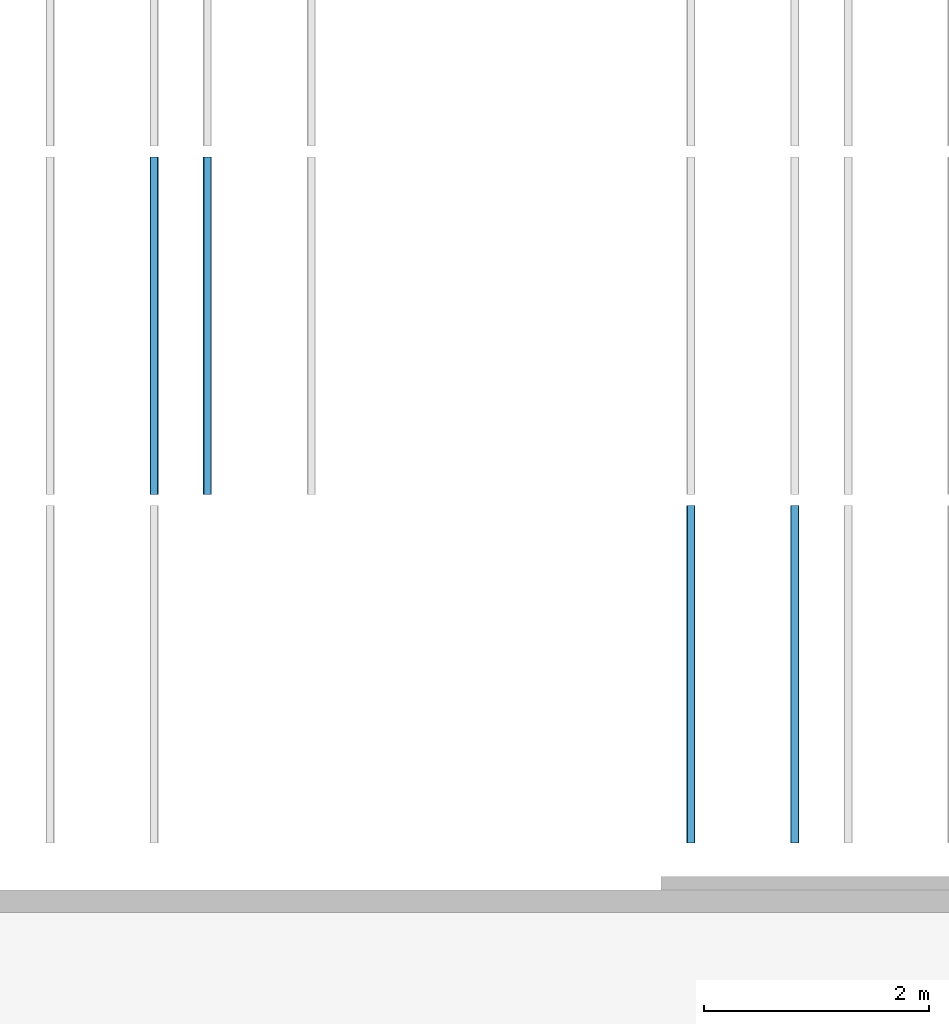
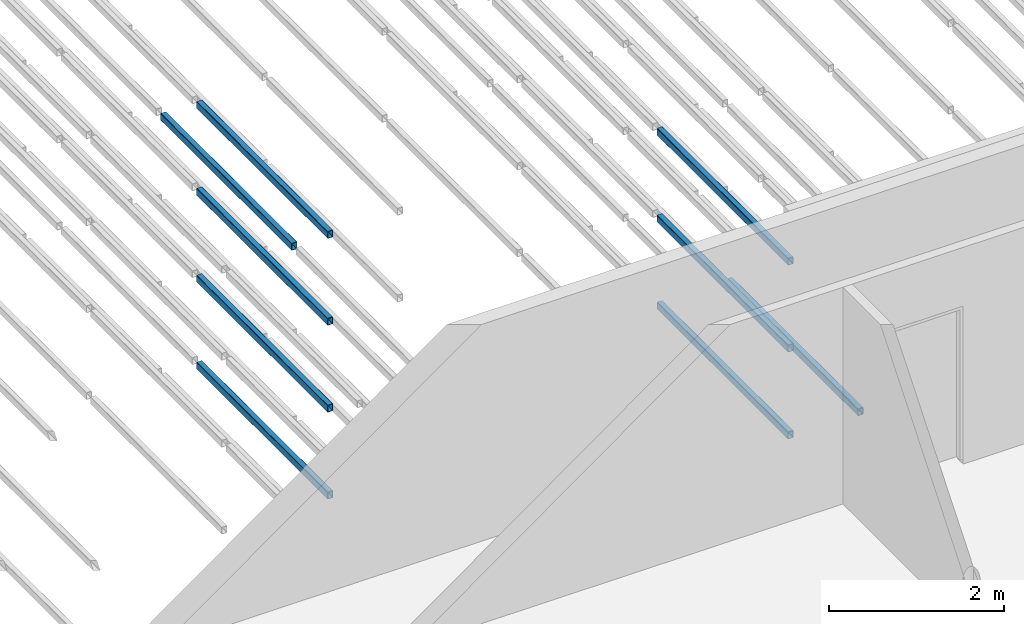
# One storey, part 23 of 290: 9 beams.
"""IFC2X3 building model written with IfcOpenShell, lengths in metres."""

import ifcopenshell
import ifcopenshell.guid

model = None  # the IFC model being written
_history = None  # IfcOwnerHistory: only IFC2X3 demands one
_inside = {}  # id of a spatial element -> (the spatial element, [elements in it])
_under = {}  # id of a project, library or spatial element -> (it, [spatial elements below it])
_declared = {}  # id of a project -> (the project, [libraries it declares])
_typed = {}  # id of a type object -> (the type object, [elements of that type])
_made_of = {}  # id of a material, layer set ... -> (it, [elements and type objects made of it])


def new_model(schema):
    """Start an empty IFC model of exactly this schema.

    Asked for "IFC4X3", IfcOpenShell would pick the latest addendum, in which some entities
    have other attributes; the version numbers below select the first issue.
    IFC2X3 requires an IfcOwnerHistory on every rooted entity: one is made here for all.
    """
    global model, _history
    if schema == "IFC4X3":
        model = ifcopenshell.file(schema_version=(4, 3, 0, 0))
    else:
        model = ifcopenshell.file(schema=schema)
    _inside.clear()
    _under.clear()
    _declared.clear()
    _typed.clear()
    _made_of.clear()
    _history = None
    if model.schema == "IFC2X3":
        org = make("IfcOrganization", Name="unknown")
        user = make(
            "IfcPersonAndOrganization",
            ThePerson=make("IfcPerson", FamilyName="unknown"),
            TheOrganization=org,
        )
        app = make(
            "IfcApplication",
            ApplicationDeveloper=org,
            Version="unknown",
            ApplicationFullName="unknown",
            ApplicationIdentifier="unknown",
        )
        _history = make(
            "IfcOwnerHistory",
            OwningUser=user,
            OwningApplication=app,
            ChangeAction="ADDED",
            CreationDate=0,
        )
    return model


def make(cls, **values):
    """One entity of the class cls with the attributes given. An attribute that is None is left unset."""
    return model.create_entity(
        cls, **{name: value for name, value in values.items() if value is not None}
    )


def entity(cls, *values):
    """Any entity or typed value of the class cls, its attributes in the order of the schema. None: left unset."""
    e = model.create_entity(cls)
    for i, value in enumerate(values):
        if value is not None:
            e[i] = value
    return e


def rooted(cls, **values):
    """An entity with a GlobalId (a new one), such as an element, a storey or a relation."""
    return make(cls, GlobalId=ifcopenshell.guid.new(), OwnerHistory=_history, **values)


def si_unit(unit_type, name, prefix=None):
    """IfcSIUnit, for example si_unit("LENGTHUNIT", "METRE", prefix="MILLI")."""
    return make("IfcSIUnit", UnitType=unit_type, Prefix=prefix, Name=name)


def converted_unit(unit_type, name, factor, base, dimensions=None, offset=None):
    """IfcConversionBasedUnit, such as the inch: factor (a typed value) times the base unit."""
    return make(
        "IfcConversionBasedUnit"
        if offset is None
        else "IfcConversionBasedUnitWithOffset",
        ConversionOffset=offset,
        Dimensions=None
        if dimensions is None
        else entity("IfcDimensionalExponents", *dimensions),
        UnitType=unit_type,
        Name=name,
        ConversionFactor=make(
            "IfcMeasureWithUnit", ValueComponent=factor, UnitComponent=base
        ),
    )


def derived_unit(unit_type, elements):
    """IfcDerivedUnit: a product of units, each with its exponent."""
    return make(
        "IfcDerivedUnit",
        Elements=[
            make("IfcDerivedUnitElement", Unit=unit, Exponent=power)
            for unit, power in elements
        ],
        UnitType=unit_type,
    )


def assignment(units):
    """IfcUnitAssignment: the units of a project."""
    return None if units is None else make("IfcUnitAssignment", Units=units)


def point(xyz):
    """IfcCartesianPoint."""
    return None if xyz is None else make("IfcCartesianPoint", Coordinates=xyz)


def direction(xyz):
    """IfcDirection."""
    return None if xyz is None else make("IfcDirection", DirectionRatios=xyz)


def frame(location, z_axis=None, x_axis=None):
    """IfcAxis2Placement3D, a coordinate frame: its origin and axes. An axis left out is left unset."""
    return make(
        "IfcAxis2Placement3D",
        Location=point(location),
        Axis=direction(z_axis),
        RefDirection=direction(x_axis),
    )


def frame_2d(location, x_axis=None):
    """IfcAxis2Placement2D, a coordinate frame in the plane: its origin and x axis."""
    return make(
        "IfcAxis2Placement2D", Location=point(location), RefDirection=direction(x_axis)
    )


def origin():
    """The frame at (0, 0, 0) with its axes left unset."""
    return frame((0.0, 0.0, 0.0))


def place(relative_to, where):
    """IfcLocalPlacement: puts the frame where relative to a parent placement (None: the world)."""
    return make(
        "IfcLocalPlacement", PlacementRelTo=relative_to, RelativePlacement=where
    )


def context(
    kind, dimensions, precision=None, world=None, true_north=None, identifier=None
):
    """IfcGeometricRepresentationContext, for example the 3D "Model" context."""
    return make(
        "IfcGeometricRepresentationContext",
        ContextIdentifier=identifier,
        ContextType=kind,
        CoordinateSpaceDimension=dimensions,
        Precision=precision,
        WorldCoordinateSystem=world,
        TrueNorth=true_north,
    )


def subcontext(parent, identifier, kind, view, scale=None):
    """IfcGeometricRepresentationSubContext, for example "Body" below "Model"."""
    return make(
        "IfcGeometricRepresentationSubContext",
        ContextIdentifier=identifier,
        ContextType=kind,
        ParentContext=parent,
        TargetScale=scale,
        TargetView=view,
    )


def project(units=None, contexts=None):
    """IfcProject with its units and contexts."""
    return rooted(
        "IfcProject",
        Name="project",
        RepresentationContexts=contexts,
        UnitsInContext=assignment(units),
    )


def spatial(cls, under=None, at=None, **own):
    """A site, building, storey or space (cls), placed at a placement, below another one or the project."""
    s = rooted(cls, ObjectPlacement=at, **own)
    if under is not None:
        _under.setdefault(under.id(), (under, []))[1].append(s)
    return s


def polyline(points):
    """IfcPolyline through the points."""
    return make("IfcPolyline", Points=[point(p) for p in points])


def circle_curve(where, radius):
    """IfcCircle in the frame where."""
    return make("IfcCircle", Position=where, Radius=radius)


def parameter(value):
    """IfcParameterValue: where a trimmed curve begins or ends, as a parameter of its basis curve."""
    return model.create_entity("IfcParameterValue", value)


def trimmed(basis, trim1, trim2, sense, master):
    """IfcTrimmedCurve: the piece of a basis curve between two trims."""
    return make(
        "IfcTrimmedCurve",
        BasisCurve=basis,
        Trim1=trim1,
        Trim2=trim2,
        SenseAgreement=sense,
        MasterRepresentation=master,
    )


def segment(curve, same_sense, transition):
    """IfcCompositeCurveSegment."""
    return make(
        "IfcCompositeCurveSegment",
        Transition=transition,
        SameSense=same_sense,
        ParentCurve=curve,
    )


def composite_curve(segments, self_intersect=None):
    """IfcCompositeCurve: segments joined end to end."""
    return make("IfcCompositeCurve", Segments=segments, SelfIntersect=self_intersect)


def outline(outer, holes=None, kind="AREA"):
    """IfcArbitraryClosedProfileDef: a profile drawn as a closed curve; with holes, ...WithVoids."""
    if holes is None:
        return make("IfcArbitraryClosedProfileDef", ProfileType=kind, OuterCurve=outer)
    return make(
        "IfcArbitraryProfileDefWithVoids",
        ProfileType=kind,
        OuterCurve=outer,
        InnerCurves=holes,
    )


def extrude(swept, where, along, depth):
    """IfcExtrudedAreaSolid: the profile swept, set in the frame where, extruded along a direction by depth."""
    return make(
        "IfcExtrudedAreaSolid",
        SweptArea=swept,
        Position=where,
        ExtrudedDirection=direction(along),
        Depth=depth,
    )


def shape(context_of_items, identifier, shape_type, items):
    """IfcShapeRepresentation: the items that make up one representation, for example the "Body"."""
    return make(
        "IfcShapeRepresentation",
        ContextOfItems=context_of_items,
        RepresentationIdentifier=identifier,
        RepresentationType=shape_type,
        Items=items,
    )


def material(Name=None, Category=None):
    """IfcMaterial."""
    return make("IfcMaterial", Name=Name, Category=Category)


def made_of(thing, what):
    """Note that an element or type object is made of a material, layer set ...; save() writes the relation."""
    if what is not None:
        _made_of.setdefault(what.id(), (what, []))[1].append(thing)
    return thing


def type_object(cls, material=None, **own):
    """A type object (cls), such as IfcWallType, which elements share."""
    return made_of(rooted(cls, **own), material)


def element(
    cls,
    number,
    at=None,
    inside=None,
    cuts=None,
    type_object=None,
    material=None,
    context=None,
    identifier="Body",
    shape_type=None,
    held_by="IfcProductDefinitionShape",
    body=None,
    shapes=None,
    **own,
):
    """One element of the class cls, such as IfcWall. Its Tag is "e" and its number.

    at: its placement. inside: the storey or other place that contains it. cuts: it is an
    opening in that element (IfcRelVoidsElement). A single representation is given by context,
    identifier, shape_type and body (its items); several are given by shapes. held_by: the class
    of the entity that holds the representations. save() writes the other relations.
    """
    e = rooted(cls, Tag="e%d" % number, ObjectPlacement=at, **own)
    if body is not None:
        shapes = [shape(context, identifier, shape_type, body)]
    if shapes is not None:
        e.Representation = make(held_by, Representations=shapes)
    if inside is not None:
        _inside.setdefault(inside.id(), (inside, []))[1].append(e)
    if cuts is not None:
        rooted(
            "IfcRelVoidsElement", RelatingBuildingElement=cuts, RelatedOpeningElement=e
        )
    if type_object is not None:
        _typed.setdefault(type_object.id(), (type_object, []))[1].append(e)
    return made_of(e, material)


def aggregate(whole, parts):
    """IfcRelAggregates: a whole, such as a stair, and the parts it consists of."""
    return rooted("IfcRelAggregates", RelatingObject=whole, RelatedObjects=parts)


def save(model, path):
    """Write the relations noted so far, then the file.

    IfcRelAggregates (storeys below a building ...), IfcRelContainedInSpatialStructure (elements
    in a storey), IfcRelDefinesByType, IfcRelAssociatesMaterial and IfcRelDeclares: one each for
    every whole, place, type object, material and project.
    """
    for whole, parts in _under.values():
        aggregate(whole, parts)
    for where, things in _inside.values():
        rooted(
            "IfcRelContainedInSpatialStructure",
            RelatedElements=things,
            RelatingStructure=where,
        )
    for kind, things in _typed.values():
        rooted("IfcRelDefinesByType", RelatedObjects=things, RelatingType=kind)
    for what, things in _made_of.values():
        rooted("IfcRelAssociatesMaterial", RelatedObjects=things, RelatingMaterial=what)
    for by, libraries in _declared.values():
        rooted("IfcRelDeclares", RelatingContext=by, RelatedDefinitions=libraries)
    model.write(path)


model = new_model("IFC2X3")

# Units and contexts
model_context = context("Model", 3, precision=1e-05, world=origin(), true_north=direction((6.12303176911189e-17, 1.0)))
body_context = subcontext(model_context, "Body", "Model", "MODEL_VIEW")
ifc_project = project(units=[si_unit("LENGTHUNIT", "METRE"), si_unit("AREAUNIT", "SQUARE_METRE"), si_unit("VOLUMEUNIT", "CUBIC_METRE"), converted_unit("PLANEANGLEUNIT", "DEGREE", entity("IfcRatioMeasure", 0.0174532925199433), si_unit("PLANEANGLEUNIT", "RADIAN"), dimensions=[0, 0, 0, 0, 0, 0, 0]), si_unit("MASSUNIT", "GRAM", prefix="KILO"), derived_unit("MASSDENSITYUNIT", [(si_unit("MASSUNIT", "GRAM", prefix="KILO"), 1), (si_unit("LENGTHUNIT", "METRE"), -3)]), derived_unit("MOMENTOFINERTIAUNIT", [(si_unit("LENGTHUNIT", "METRE"), 4)]), si_unit("TIMEUNIT", "SECOND"), si_unit("FREQUENCYUNIT", "HERTZ"), si_unit("THERMODYNAMICTEMPERATUREUNIT", "DEGREE_CELSIUS"), derived_unit("THERMALTRANSMITTANCEUNIT", [(si_unit("MASSUNIT", "GRAM", prefix="KILO"), 1), (si_unit("THERMODYNAMICTEMPERATUREUNIT", "KELVIN"), -1), (si_unit("TIMEUNIT", "SECOND"), -3)]), derived_unit("VOLUMETRICFLOWRATEUNIT", [(si_unit("LENGTHUNIT", "METRE"), 3), (si_unit("TIMEUNIT", "SECOND"), -1)]), si_unit("ELECTRICCURRENTUNIT", "AMPERE"), si_unit("ELECTRICVOLTAGEUNIT", "VOLT"), si_unit("POWERUNIT", "WATT"), si_unit("FORCEUNIT", "NEWTON", prefix="KILO"), si_unit("ILLUMINANCEUNIT", "LUX"), si_unit("LUMINOUSFLUXUNIT", "LUMEN"), si_unit("LUMINOUSINTENSITYUNIT", "CANDELA"), derived_unit("USERDEFINED", [(si_unit("MASSUNIT", "GRAM", prefix="KILO"), -1), (si_unit("LENGTHUNIT", "METRE"), -2), (si_unit("TIMEUNIT", "SECOND"), 3), (si_unit("LUMINOUSFLUXUNIT", "LUMEN"), 1)]), derived_unit("LINEARVELOCITYUNIT", [(si_unit("LENGTHUNIT", "METRE"), 1), (si_unit("TIMEUNIT", "SECOND"), -1)]), si_unit("PRESSUREUNIT", "PASCAL"), derived_unit("USERDEFINED", [(si_unit("LENGTHUNIT", "METRE"), -2), (si_unit("MASSUNIT", "GRAM", prefix="KILO"), 1), (si_unit("TIMEUNIT", "SECOND"), -2)]), derived_unit("LINEARFORCEUNIT", [(si_unit("MASSUNIT", "GRAM", prefix="KILO"), 1), (si_unit("LENGTHUNIT", "METRE"), 1), (si_unit("TIMEUNIT", "SECOND"), -2), (si_unit("LENGTHUNIT", "METRE"), -1)]), derived_unit("PLANARFORCEUNIT", [(si_unit("MASSUNIT", "GRAM", prefix="KILO"), 1), (si_unit("LENGTHUNIT", "METRE"), 1), (si_unit("TIMEUNIT", "SECOND"), -2), (si_unit("LENGTHUNIT", "METRE"), -2)])], contexts=[model_context])

# Site, building, storey
site_placement = place(None, origin())
site = spatial("IfcSite", under=ifc_project, at=site_placement, Name="Default", CompositionType="ELEMENT")
building_placement = place(site_placement, origin())
building = spatial("IfcBuilding", under=site, at=building_placement, CompositionType="ELEMENT")
storey_placement = place(building_placement, frame((0.0, 0.0, 4.0)))
storey = spatial("IfcBuildingStorey", under=building, at=storey_placement, Name="01_OG", CompositionType="ELEMENT", Elevation=4.0)

# Beams
ifc_material = material(Name="Metall - Baustahl S235 blau")
beam_type = type_object("IfcBeamType", Name="RHS Träger (EN 10219-2):RHS 100 x 75 x 5", PredefinedType="NOTDEFINED")
beam_1_placement = place(storey_placement, frame((-190.715111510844, 24.048088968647, 0.0150000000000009), z_axis=(0.0, 0.0, 1.0), x_axis=(0.0, 1.0, 0.0)))
element("IfcBeam", 1, at=beam_1_placement, inside=storey, type_object=beam_type, material=ifc_material, Name="RHS Träger (EN 10219-2):RHS 100 x 75 x 5", ObjectType="RHS Träger (EN 10219-2):RHS 100 x 75 x 5", context=body_context, shape_type="SweptSolid", body=[
    extrude(outline(composite_curve([segment(trimmed(circle_curve(frame_2d((-0.0274999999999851, -0.0400000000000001), x_axis=(1.0, 0.0)), 0.01), [parameter(180.0)], [parameter(270.0)], True, "PARAMETER"), True, "CONTINUOUS"), segment(polyline([(-0.0274999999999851, -0.05), (0.0274999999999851, -0.05)]), True, "CONTINUOUS"), segment(trimmed(circle_curve(frame_2d((0.0274999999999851, -0.0400000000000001), x_axis=(1.0, 0.0)), 0.01), [parameter(270.0)], [parameter(5.08888749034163e-14)], True, "PARAMETER"), True, "CONTINUOUS"), segment(polyline([(0.0375000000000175, -0.0400000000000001), (0.0375000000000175, 0.0400000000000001)]), True, "CONTINUOUS"), segment(trimmed(circle_curve(frame_2d((0.0274999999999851, 0.0400000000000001), x_axis=(1.0, 0.0)), 0.01), [parameter(360.0)], [parameter(89.9999999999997)], True, "PARAMETER"), True, "CONTINUOUS"), segment(polyline([(0.0274999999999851, 0.05), (-0.0274999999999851, 0.05)]), True, "CONTINUOUS"), segment(trimmed(circle_curve(frame_2d((-0.0274999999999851, 0.0400000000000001), x_axis=(1.0, 0.0)), 0.01), [parameter(90.0000000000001)], [parameter(180.0)], True, "PARAMETER"), True, "CONTINUOUS"), segment(polyline([(-0.0374999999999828, 0.0400000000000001), (-0.0374999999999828, -0.0400000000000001)]), True, "CONTINUOUS")], self_intersect=False), holes=[composite_curve([segment(polyline([(0.0274999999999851, -0.0450000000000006), (-0.0274999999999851, -0.0450000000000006)]), True, "CONTINUOUS"), segment(trimmed(circle_curve(frame_2d((-0.0274999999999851, -0.0400000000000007), x_axis=(1.0, 0.0)), 0.005), [parameter(180.0)], [parameter(270.0)], True, "PARAMETER"), False, "CONTINUOUS"), segment(polyline([(-0.0325000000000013, -0.0400000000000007), (-0.0325000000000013, 0.039999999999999)]), True, "CONTINUOUS"), segment(trimmed(circle_curve(frame_2d((-0.0274999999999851, 0.039999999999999), x_axis=(1.0, 0.0)), 0.005), [parameter(90.0000000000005)], [parameter(180.0)], True, "PARAMETER"), False, "CONTINUOUS"), segment(polyline([(-0.0274999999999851, 0.044999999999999), (0.0274999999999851, 0.044999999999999)]), True, "CONTINUOUS"), segment(trimmed(circle_curve(frame_2d((0.0274999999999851, 0.039999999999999), x_axis=(1.0, 0.0)), 0.005), [parameter(0.0)], [parameter(90.0000000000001)], True, "PARAMETER"), False, "CONTINUOUS"), segment(polyline([(0.0325000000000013, 0.039999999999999), (0.0325000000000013, -0.0400000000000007)]), True, "CONTINUOUS"), segment(trimmed(circle_curve(frame_2d((0.0274999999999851, -0.0400000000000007), x_axis=(1.0, 0.0)), 0.005), [parameter(270.0)], [parameter(4.07110999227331e-13)], True, "PARAMETER"), False, "CONTINUOUS")], self_intersect=False)]), frame((9.99999999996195e-05, 0.0375000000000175, -0.0500000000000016), z_axis=(1.0, 0.0, 0.0), x_axis=(0.0, -1.0, 0.0)), (0.0, 0.0, 1.0), 2.9998),
])
beam_2_placement = place(storey_placement, frame((-190.715111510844, 24.048088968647, 1.23), z_axis=(0.0, 0.0, 1.0), x_axis=(0.0, 1.0, 0.0)))
element("IfcBeam", 2, at=beam_2_placement, inside=storey, type_object=beam_type, material=ifc_material, Name="RHS Träger (EN 10219-2):RHS 100 x 75 x 5", ObjectType="RHS Träger (EN 10219-2):RHS 100 x 75 x 5", context=body_context, shape_type="SweptSolid", body=[
    extrude(outline(composite_curve([segment(trimmed(circle_curve(frame_2d((-0.0274999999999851, -0.0399999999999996), x_axis=(1.0, 0.0)), 0.01), [parameter(180.0)], [parameter(270.0)], True, "PARAMETER"), True, "CONTINUOUS"), segment(polyline([(-0.0274999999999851, -0.0499999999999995), (0.0274999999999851, -0.0499999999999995)]), True, "CONTINUOUS"), segment(trimmed(circle_curve(frame_2d((0.0274999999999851, -0.0399999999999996), x_axis=(1.0, 0.0)), 0.01), [parameter(270.0)], [parameter(5.08888749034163e-14)], True, "PARAMETER"), True, "CONTINUOUS"), segment(polyline([(0.0375000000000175, -0.0399999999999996), (0.0375000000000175, 0.0399999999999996)]), True, "CONTINUOUS"), segment(trimmed(circle_curve(frame_2d((0.0274999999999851, 0.0399999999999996), x_axis=(1.0, 0.0)), 0.01), [parameter(360.0)], [parameter(89.9999999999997)], True, "PARAMETER"), True, "CONTINUOUS"), segment(polyline([(0.0274999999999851, 0.0500000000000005), (-0.0274999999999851, 0.0500000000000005)]), True, "CONTINUOUS"), segment(trimmed(circle_curve(frame_2d((-0.0274999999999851, 0.0399999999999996), x_axis=(1.0, 0.0)), 0.01), [parameter(90.0000000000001)], [parameter(180.0)], True, "PARAMETER"), True, "CONTINUOUS"), segment(polyline([(-0.0374999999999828, 0.0399999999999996), (-0.0374999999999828, -0.0399999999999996)]), True, "CONTINUOUS")], self_intersect=False), holes=[composite_curve([segment(polyline([(0.0274999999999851, -0.0450000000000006), (-0.0274999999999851, -0.0450000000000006)]), True, "CONTINUOUS"), segment(trimmed(circle_curve(frame_2d((-0.0274999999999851, -0.0400000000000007), x_axis=(1.0, 0.0)), 0.005), [parameter(180.0)], [parameter(270.0)], True, "PARAMETER"), False, "CONTINUOUS"), segment(polyline([(-0.0325000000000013, -0.0400000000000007), (-0.0325000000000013, 0.0399999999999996)]), True, "CONTINUOUS"), segment(trimmed(circle_curve(frame_2d((-0.0274999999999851, 0.0399999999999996), x_axis=(1.0, 0.0)), 0.005), [parameter(90.0000000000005)], [parameter(180.0)], True, "PARAMETER"), False, "CONTINUOUS"), segment(polyline([(-0.0274999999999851, 0.0449999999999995), (0.0274999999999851, 0.0449999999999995)]), True, "CONTINUOUS"), segment(trimmed(circle_curve(frame_2d((0.0274999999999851, 0.0399999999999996), x_axis=(1.0, 0.0)), 0.005), [parameter(0.0)], [parameter(90.0000000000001)], True, "PARAMETER"), False, "CONTINUOUS"), segment(polyline([(0.0325000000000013, 0.0399999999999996), (0.0325000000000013, -0.0400000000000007)]), True, "CONTINUOUS"), segment(trimmed(circle_curve(frame_2d((0.0274999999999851, -0.0400000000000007), x_axis=(1.0, 0.0)), 0.005), [parameter(270.0)], [parameter(4.07110999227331e-13)], True, "PARAMETER"), False, "CONTINUOUS")], self_intersect=False)]), frame((9.99999999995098e-05, 0.0375000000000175, -0.0500000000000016), z_axis=(1.0, 0.0, 0.0), x_axis=(0.0, -1.0, 0.0)), (0.0, 0.0, 1.0), 2.9998),
])
beam_3_placement = place(storey_placement, frame((-190.715111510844, 24.048088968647, 2.445), z_axis=(0.0, 0.0, 1.0), x_axis=(0.0, 1.0, 0.0)))
element("IfcBeam", 3, at=beam_3_placement, inside=storey, type_object=beam_type, material=ifc_material, Name="RHS Träger (EN 10219-2):RHS 100 x 75 x 5", ObjectType="RHS Träger (EN 10219-2):RHS 100 x 75 x 5", context=body_context, shape_type="SweptSolid", body=[
    extrude(outline(composite_curve([segment(trimmed(circle_curve(frame_2d((-0.0274999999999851, -0.0399999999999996), x_axis=(1.0, 0.0)), 0.01), [parameter(180.0)], [parameter(270.0)], True, "PARAMETER"), True, "CONTINUOUS"), segment(polyline([(-0.0274999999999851, -0.0499999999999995), (0.0274999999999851, -0.0499999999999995)]), True, "CONTINUOUS"), segment(trimmed(circle_curve(frame_2d((0.0274999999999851, -0.0399999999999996), x_axis=(1.0, 0.0)), 0.01), [parameter(270.0)], [parameter(5.08888749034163e-14)], True, "PARAMETER"), True, "CONTINUOUS"), segment(polyline([(0.0375000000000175, -0.0399999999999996), (0.0375000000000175, 0.0399999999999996)]), True, "CONTINUOUS"), segment(trimmed(circle_curve(frame_2d((0.0274999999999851, 0.0399999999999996), x_axis=(1.0, 0.0)), 0.01), [parameter(360.0)], [parameter(89.9999999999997)], True, "PARAMETER"), True, "CONTINUOUS"), segment(polyline([(0.0274999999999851, 0.0500000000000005), (-0.0274999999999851, 0.0500000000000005)]), True, "CONTINUOUS"), segment(trimmed(circle_curve(frame_2d((-0.0274999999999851, 0.0399999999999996), x_axis=(1.0, 0.0)), 0.01), [parameter(90.0000000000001)], [parameter(180.0)], True, "PARAMETER"), True, "CONTINUOUS"), segment(polyline([(-0.0374999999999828, 0.0399999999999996), (-0.0374999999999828, -0.0399999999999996)]), True, "CONTINUOUS")], self_intersect=False), holes=[composite_curve([segment(polyline([(0.0274999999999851, -0.0450000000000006), (-0.0274999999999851, -0.0450000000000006)]), True, "CONTINUOUS"), segment(trimmed(circle_curve(frame_2d((-0.0274999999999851, -0.0400000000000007), x_axis=(1.0, 0.0)), 0.005), [parameter(180.0)], [parameter(270.0)], True, "PARAMETER"), False, "CONTINUOUS"), segment(polyline([(-0.0325000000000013, -0.0400000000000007), (-0.0325000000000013, 0.0399999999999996)]), True, "CONTINUOUS"), segment(trimmed(circle_curve(frame_2d((-0.0274999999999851, 0.0399999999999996), x_axis=(1.0, 0.0)), 0.005), [parameter(90.0000000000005)], [parameter(180.0)], True, "PARAMETER"), False, "CONTINUOUS"), segment(polyline([(-0.0274999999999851, 0.0449999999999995), (0.0274999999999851, 0.0449999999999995)]), True, "CONTINUOUS"), segment(trimmed(circle_curve(frame_2d((0.0274999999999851, 0.0399999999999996), x_axis=(1.0, 0.0)), 0.005), [parameter(0.0)], [parameter(90.0000000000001)], True, "PARAMETER"), False, "CONTINUOUS"), segment(polyline([(0.0325000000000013, 0.0399999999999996), (0.0325000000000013, -0.0400000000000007)]), True, "CONTINUOUS"), segment(trimmed(circle_curve(frame_2d((0.0274999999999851, -0.0400000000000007), x_axis=(1.0, 0.0)), 0.005), [parameter(270.0)], [parameter(4.07110999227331e-13)], True, "PARAMETER"), False, "CONTINUOUS")], self_intersect=False)]), frame((9.99999999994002e-05, 0.0375000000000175, -0.0500000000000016), z_axis=(1.0, 0.0, 0.0), x_axis=(0.0, -1.0, 0.0)), (0.0, 0.0, 1.0), 2.9998),
])
beam_4_placement = place(storey_placement, frame((-189.865111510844, 24.048088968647, 0.0150000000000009), z_axis=(0.0, 0.0, 1.0), x_axis=(0.0, 1.0, 0.0)))
element("IfcBeam", 4, at=beam_4_placement, inside=storey, type_object=beam_type, material=ifc_material, Name="RHS Träger (EN 10219-2):RHS 100 x 75 x 5", ObjectType="RHS Träger (EN 10219-2):RHS 100 x 75 x 5", context=body_context, shape_type="SweptSolid", body=[
    extrude(outline(composite_curve([segment(polyline([(-0.0400000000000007, -0.0374999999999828), (0.0399999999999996, -0.0374999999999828)]), True, "CONTINUOUS"), segment(trimmed(circle_curve(frame_2d((0.0399999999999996, -0.0274999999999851), x_axis=(0.0, 1.0)), 0.01), [parameter(180.0)], [parameter(270.0)], True, "PARAMETER"), True, "CONTINUOUS"), segment(polyline([(0.0499999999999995, -0.0274999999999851), (0.0499999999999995, 0.0274999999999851)]), True, "CONTINUOUS"), segment(trimmed(circle_curve(frame_2d((0.0399999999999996, 0.0274999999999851), x_axis=(0.0, 1.0)), 0.01), [parameter(270.0)], [parameter(4.07110999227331e-13)], True, "PARAMETER"), True, "CONTINUOUS"), segment(polyline([(0.0399999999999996, 0.0375000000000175), (-0.0400000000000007, 0.0375000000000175)]), True, "CONTINUOUS"), segment(trimmed(circle_curve(frame_2d((-0.0400000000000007, 0.0274999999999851), x_axis=(0.0, 1.0)), 0.01), [parameter(360.0)], [parameter(90.0000000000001)], True, "PARAMETER"), True, "CONTINUOUS"), segment(polyline([(-0.0500000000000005, 0.0274999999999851), (-0.0500000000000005, -0.0274999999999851)]), True, "CONTINUOUS"), segment(trimmed(circle_curve(frame_2d((-0.0400000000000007, -0.0274999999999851), x_axis=(0.0, 1.0)), 0.01), [parameter(90.0000000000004)], [parameter(180.0)], True, "PARAMETER"), True, "CONTINUOUS")], self_intersect=False), holes=[composite_curve([segment(trimmed(circle_curve(frame_2d((-0.0400000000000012, 0.0274999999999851), x_axis=(0.0, 1.0)), 0.005), [parameter(360.0)], [parameter(89.9999999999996)], True, "PARAMETER"), False, "CONTINUOUS"), segment(polyline([(-0.0400000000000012, 0.0325000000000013), (0.0399999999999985, 0.0325000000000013)]), True, "CONTINUOUS"), segment(trimmed(circle_curve(frame_2d((0.0399999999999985, 0.0274999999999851), x_axis=(0.0, 1.0)), 0.005), [parameter(270.0)], [parameter(0.0)], True, "PARAMETER"), False, "CONTINUOUS"), segment(polyline([(0.0449999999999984, 0.0274999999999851), (0.0449999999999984, -0.0274999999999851)]), True, "CONTINUOUS"), segment(trimmed(circle_curve(frame_2d((0.0399999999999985, -0.0274999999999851), x_axis=(0.0, 1.0)), 0.005), [parameter(180.0)], [parameter(269.999999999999)], True, "PARAMETER"), False, "CONTINUOUS"), segment(polyline([(0.0399999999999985, -0.0325000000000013), (-0.0400000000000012, -0.0325000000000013)]), True, "CONTINUOUS"), segment(trimmed(circle_curve(frame_2d((-0.0400000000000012, -0.0274999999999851), x_axis=(0.0, 1.0)), 0.005), [parameter(90.0000000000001)], [parameter(180.0)], True, "PARAMETER"), False, "CONTINUOUS"), segment(polyline([(-0.0450000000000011, -0.0274999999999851), (-0.0450000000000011, 0.0274999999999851)]), True, "CONTINUOUS")], self_intersect=False)]), frame((9.99999999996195e-05, -0.0375000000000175, -0.0500000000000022), z_axis=(1.0, 0.0, 0.0), x_axis=(0.0, 0.0, -1.0)), (0.0, 0.0, 1.0), 2.9998),
])
beam_5_placement = place(storey_placement, frame((-195.565111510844, 27.148088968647, 2.445), z_axis=(0.0, 0.0, 1.0), x_axis=(0.0, 1.0, 0.0)))
element("IfcBeam", 5, at=beam_5_placement, inside=storey, type_object=beam_type, material=ifc_material, Name="RHS Träger (EN 10219-2):RHS 100 x 75 x 5", ObjectType="RHS Träger (EN 10219-2):RHS 100 x 75 x 5", context=body_context, shape_type="SweptSolid", body=[
    extrude(outline(composite_curve([segment(polyline([(-0.0399999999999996, -0.0374999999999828), (0.0399999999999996, -0.0374999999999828)]), True, "CONTINUOUS"), segment(trimmed(circle_curve(frame_2d((0.0399999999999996, -0.0274999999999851), x_axis=(0.0, 1.0)), 0.01), [parameter(180.0)], [parameter(270.0)], True, "PARAMETER"), True, "CONTINUOUS"), segment(polyline([(0.0500000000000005, -0.0274999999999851), (0.0500000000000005, 0.0274999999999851)]), True, "CONTINUOUS"), segment(trimmed(circle_curve(frame_2d((0.0399999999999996, 0.0274999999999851), x_axis=(0.0, 1.0)), 0.01), [parameter(270.0)], [parameter(4.07110999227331e-13)], True, "PARAMETER"), True, "CONTINUOUS"), segment(polyline([(0.0399999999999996, 0.0375000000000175), (-0.0399999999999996, 0.0375000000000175)]), True, "CONTINUOUS"), segment(trimmed(circle_curve(frame_2d((-0.0399999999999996, 0.0274999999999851), x_axis=(0.0, 1.0)), 0.01), [parameter(360.0)], [parameter(90.0000000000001)], True, "PARAMETER"), True, "CONTINUOUS"), segment(polyline([(-0.0499999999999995, 0.0274999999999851), (-0.0499999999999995, -0.0274999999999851)]), True, "CONTINUOUS"), segment(trimmed(circle_curve(frame_2d((-0.0399999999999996, -0.0274999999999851), x_axis=(0.0, 1.0)), 0.01), [parameter(90.0000000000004)], [parameter(180.0)], True, "PARAMETER"), True, "CONTINUOUS")], self_intersect=False), holes=[composite_curve([segment(trimmed(circle_curve(frame_2d((-0.0400000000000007, 0.0274999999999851), x_axis=(0.0, 1.0)), 0.005), [parameter(360.0)], [parameter(89.9999999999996)], True, "PARAMETER"), False, "CONTINUOUS"), segment(polyline([(-0.0400000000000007, 0.0325000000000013), (0.0399999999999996, 0.0325000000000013)]), True, "CONTINUOUS"), segment(trimmed(circle_curve(frame_2d((0.0399999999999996, 0.0274999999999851), x_axis=(0.0, 1.0)), 0.005), [parameter(270.0)], [parameter(0.0)], True, "PARAMETER"), False, "CONTINUOUS"), segment(polyline([(0.0449999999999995, 0.0274999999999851), (0.0449999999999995, -0.0274999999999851)]), True, "CONTINUOUS"), segment(trimmed(circle_curve(frame_2d((0.0399999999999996, -0.0274999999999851), x_axis=(0.0, 1.0)), 0.005), [parameter(180.0)], [parameter(269.999999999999)], True, "PARAMETER"), False, "CONTINUOUS"), segment(polyline([(0.0399999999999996, -0.0325000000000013), (-0.0400000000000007, -0.0325000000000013)]), True, "CONTINUOUS"), segment(trimmed(circle_curve(frame_2d((-0.0400000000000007, -0.0274999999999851), x_axis=(0.0, 1.0)), 0.005), [parameter(90.0000000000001)], [parameter(180.0)], True, "PARAMETER"), False, "CONTINUOUS"), segment(polyline([(-0.0450000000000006, -0.0274999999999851), (-0.0450000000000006, 0.0274999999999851)]), True, "CONTINUOUS")], self_intersect=False)]), frame((9.99999999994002e-05, -0.0375000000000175, -0.0500000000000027), z_axis=(1.0, 0.0, 0.0), x_axis=(0.0, 0.0, -1.0)), (0.0, 0.0, 1.0), 2.9998),
])
beam_6_placement = place(storey_placement, frame((-195.015111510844, 27.148088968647, -1.2), z_axis=(0.0, 0.0, 1.0), x_axis=(0.0, 1.0, 0.0)))
element("IfcBeam", 6, at=beam_6_placement, inside=storey, type_object=beam_type, material=ifc_material, Name="RHS Träger (EN 10219-2):RHS 100 x 75 x 5", ObjectType="RHS Träger (EN 10219-2):RHS 100 x 75 x 5", context=body_context, shape_type="SweptSolid", body=[
    extrude(outline(composite_curve([segment(trimmed(circle_curve(frame_2d((-0.0275000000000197, -0.0400000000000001), x_axis=(1.0, 0.0)), 0.01), [parameter(180.0)], [parameter(270.0)], True, "PARAMETER"), True, "CONTINUOUS"), segment(polyline([(-0.0275000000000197, -0.05), (0.0274999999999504, -0.05)]), True, "CONTINUOUS"), segment(trimmed(circle_curve(frame_2d((0.0274999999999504, -0.0400000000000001), x_axis=(1.0, 0.0)), 0.01), [parameter(270.0)], [parameter(5.08888749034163e-14)], True, "PARAMETER"), True, "CONTINUOUS"), segment(polyline([(0.0374999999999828, -0.0400000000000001), (0.0374999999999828, 0.0400000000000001)]), True, "CONTINUOUS"), segment(trimmed(circle_curve(frame_2d((0.0274999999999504, 0.0400000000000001), x_axis=(1.0, 0.0)), 0.01), [parameter(360.0)], [parameter(89.9999999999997)], True, "PARAMETER"), True, "CONTINUOUS"), segment(polyline([(0.0274999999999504, 0.05), (-0.0275000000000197, 0.05)]), True, "CONTINUOUS"), segment(trimmed(circle_curve(frame_2d((-0.0275000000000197, 0.0400000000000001), x_axis=(1.0, 0.0)), 0.01), [parameter(90.0000000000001)], [parameter(180.0)], True, "PARAMETER"), True, "CONTINUOUS"), segment(polyline([(-0.0375000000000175, 0.0400000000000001), (-0.0375000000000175, -0.0400000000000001)]), True, "CONTINUOUS")], self_intersect=False), holes=[composite_curve([segment(polyline([(0.0274999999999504, -0.0450000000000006), (-0.0275000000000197, -0.0450000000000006)]), True, "CONTINUOUS"), segment(trimmed(circle_curve(frame_2d((-0.0275000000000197, -0.0400000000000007), x_axis=(1.0, 0.0)), 0.005), [parameter(180.0)], [parameter(270.0)], True, "PARAMETER"), False, "CONTINUOUS"), segment(polyline([(-0.0325000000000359, -0.0400000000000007), (-0.0325000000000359, 0.039999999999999)]), True, "CONTINUOUS"), segment(trimmed(circle_curve(frame_2d((-0.0275000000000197, 0.039999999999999), x_axis=(1.0, 0.0)), 0.005), [parameter(90.0000000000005)], [parameter(180.0)], True, "PARAMETER"), False, "CONTINUOUS"), segment(polyline([(-0.0275000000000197, 0.044999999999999), (0.0274999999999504, 0.044999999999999)]), True, "CONTINUOUS"), segment(trimmed(circle_curve(frame_2d((0.0274999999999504, 0.039999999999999), x_axis=(1.0, 0.0)), 0.005), [parameter(0.0)], [parameter(90.0000000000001)], True, "PARAMETER"), False, "CONTINUOUS"), segment(polyline([(0.0324999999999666, 0.039999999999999), (0.0324999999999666, -0.0400000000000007)]), True, "CONTINUOUS"), segment(trimmed(circle_curve(frame_2d((0.0274999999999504, -0.0400000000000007), x_axis=(1.0, 0.0)), 0.005), [parameter(270.0)], [parameter(4.07110999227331e-13)], True, "PARAMETER"), False, "CONTINUOUS")], self_intersect=False)]), frame((0.000100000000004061, 0.0374999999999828, -0.0500000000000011), z_axis=(1.0, 0.0, 0.0), x_axis=(0.0, -1.0, 0.0)), (0.0, 0.0, 1.0), 2.9998),
])
beam_7_placement = place(storey_placement, frame((-195.015111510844, 27.148088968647, 0.0150000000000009), z_axis=(0.0, 0.0, 1.0), x_axis=(0.0, 1.0, 0.0)))
element("IfcBeam", 7, at=beam_7_placement, inside=storey, type_object=beam_type, material=ifc_material, Name="RHS Träger (EN 10219-2):RHS 100 x 75 x 5", ObjectType="RHS Träger (EN 10219-2):RHS 100 x 75 x 5", context=body_context, shape_type="SweptSolid", body=[
    extrude(outline(composite_curve([segment(trimmed(circle_curve(frame_2d((-0.0275000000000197, -0.0400000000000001), x_axis=(1.0, 0.0)), 0.01), [parameter(180.0)], [parameter(270.0)], True, "PARAMETER"), True, "CONTINUOUS"), segment(polyline([(-0.0275000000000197, -0.05), (0.0274999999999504, -0.05)]), True, "CONTINUOUS"), segment(trimmed(circle_curve(frame_2d((0.0274999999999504, -0.0400000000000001), x_axis=(1.0, 0.0)), 0.01), [parameter(270.0)], [parameter(5.08888749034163e-14)], True, "PARAMETER"), True, "CONTINUOUS"), segment(polyline([(0.0374999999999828, -0.0400000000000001), (0.0374999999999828, 0.0400000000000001)]), True, "CONTINUOUS"), segment(trimmed(circle_curve(frame_2d((0.0274999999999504, 0.0400000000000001), x_axis=(1.0, 0.0)), 0.01), [parameter(360.0)], [parameter(89.9999999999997)], True, "PARAMETER"), True, "CONTINUOUS"), segment(polyline([(0.0274999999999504, 0.05), (-0.0275000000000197, 0.05)]), True, "CONTINUOUS"), segment(trimmed(circle_curve(frame_2d((-0.0275000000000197, 0.0400000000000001), x_axis=(1.0, 0.0)), 0.01), [parameter(90.0000000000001)], [parameter(180.0)], True, "PARAMETER"), True, "CONTINUOUS"), segment(polyline([(-0.0375000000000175, 0.0400000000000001), (-0.0375000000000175, -0.0400000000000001)]), True, "CONTINUOUS")], self_intersect=False), holes=[composite_curve([segment(polyline([(0.0274999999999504, -0.0450000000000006), (-0.0275000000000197, -0.0450000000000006)]), True, "CONTINUOUS"), segment(trimmed(circle_curve(frame_2d((-0.0275000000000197, -0.0400000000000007), x_axis=(1.0, 0.0)), 0.005), [parameter(180.0)], [parameter(270.0)], True, "PARAMETER"), False, "CONTINUOUS"), segment(polyline([(-0.0325000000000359, -0.0400000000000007), (-0.0325000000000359, 0.039999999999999)]), True, "CONTINUOUS"), segment(trimmed(circle_curve(frame_2d((-0.0275000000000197, 0.039999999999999), x_axis=(1.0, 0.0)), 0.005), [parameter(90.0000000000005)], [parameter(180.0)], True, "PARAMETER"), False, "CONTINUOUS"), segment(polyline([(-0.0275000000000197, 0.044999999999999), (0.0274999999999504, 0.044999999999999)]), True, "CONTINUOUS"), segment(trimmed(circle_curve(frame_2d((0.0274999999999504, 0.039999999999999), x_axis=(1.0, 0.0)), 0.005), [parameter(0.0)], [parameter(90.0000000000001)], True, "PARAMETER"), False, "CONTINUOUS"), segment(polyline([(0.0324999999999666, 0.039999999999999), (0.0324999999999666, -0.0400000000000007)]), True, "CONTINUOUS"), segment(trimmed(circle_curve(frame_2d((0.0274999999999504, -0.0400000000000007), x_axis=(1.0, 0.0)), 0.005), [parameter(270.0)], [parameter(4.07110999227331e-13)], True, "PARAMETER"), False, "CONTINUOUS")], self_intersect=False)]), frame((0.000100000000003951, 0.0374999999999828, -0.0500000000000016), z_axis=(1.0, 0.0, 0.0), x_axis=(0.0, -1.0, 0.0)), (0.0, 0.0, 1.0), 2.9998),
])
beam_8_placement = place(storey_placement, frame((-195.015111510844, 27.148088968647, 1.23), z_axis=(0.0, 0.0, 1.0), x_axis=(0.0, 1.0, 0.0)))
element("IfcBeam", 8, at=beam_8_placement, inside=storey, type_object=beam_type, material=ifc_material, Name="RHS Träger (EN 10219-2):RHS 100 x 75 x 5", ObjectType="RHS Träger (EN 10219-2):RHS 100 x 75 x 5", context=body_context, shape_type="SweptSolid", body=[
    extrude(outline(composite_curve([segment(trimmed(circle_curve(frame_2d((-0.0275000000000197, -0.0399999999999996), x_axis=(1.0, 0.0)), 0.01), [parameter(180.0)], [parameter(270.0)], True, "PARAMETER"), True, "CONTINUOUS"), segment(polyline([(-0.0275000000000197, -0.0499999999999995), (0.0274999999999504, -0.0499999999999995)]), True, "CONTINUOUS"), segment(trimmed(circle_curve(frame_2d((0.0274999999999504, -0.0399999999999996), x_axis=(1.0, 0.0)), 0.01), [parameter(270.0)], [parameter(5.08888749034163e-14)], True, "PARAMETER"), True, "CONTINUOUS"), segment(polyline([(0.0374999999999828, -0.0399999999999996), (0.0374999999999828, 0.0399999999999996)]), True, "CONTINUOUS"), segment(trimmed(circle_curve(frame_2d((0.0274999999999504, 0.0399999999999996), x_axis=(1.0, 0.0)), 0.01), [parameter(360.0)], [parameter(89.9999999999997)], True, "PARAMETER"), True, "CONTINUOUS"), segment(polyline([(0.0274999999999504, 0.0500000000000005), (-0.0275000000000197, 0.0500000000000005)]), True, "CONTINUOUS"), segment(trimmed(circle_curve(frame_2d((-0.0275000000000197, 0.0399999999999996), x_axis=(1.0, 0.0)), 0.01), [parameter(90.0000000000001)], [parameter(180.0)], True, "PARAMETER"), True, "CONTINUOUS"), segment(polyline([(-0.0375000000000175, 0.0399999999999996), (-0.0375000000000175, -0.0399999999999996)]), True, "CONTINUOUS")], self_intersect=False), holes=[composite_curve([segment(polyline([(0.0274999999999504, -0.0450000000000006), (-0.0275000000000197, -0.0450000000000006)]), True, "CONTINUOUS"), segment(trimmed(circle_curve(frame_2d((-0.0275000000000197, -0.0400000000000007), x_axis=(1.0, 0.0)), 0.005), [parameter(180.0)], [parameter(270.0)], True, "PARAMETER"), False, "CONTINUOUS"), segment(polyline([(-0.0325000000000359, -0.0400000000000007), (-0.0325000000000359, 0.0399999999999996)]), True, "CONTINUOUS"), segment(trimmed(circle_curve(frame_2d((-0.0275000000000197, 0.0399999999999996), x_axis=(1.0, 0.0)), 0.005), [parameter(90.0000000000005)], [parameter(180.0)], True, "PARAMETER"), False, "CONTINUOUS"), segment(polyline([(-0.0275000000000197, 0.0449999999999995), (0.0274999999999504, 0.0449999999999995)]), True, "CONTINUOUS"), segment(trimmed(circle_curve(frame_2d((0.0274999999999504, 0.0399999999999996), x_axis=(1.0, 0.0)), 0.005), [parameter(0.0)], [parameter(90.0000000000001)], True, "PARAMETER"), False, "CONTINUOUS"), segment(polyline([(0.0324999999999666, 0.0399999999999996), (0.0324999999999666, -0.0400000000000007)]), True, "CONTINUOUS"), segment(trimmed(circle_curve(frame_2d((0.0274999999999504, -0.0400000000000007), x_axis=(1.0, 0.0)), 0.005), [parameter(270.0)], [parameter(4.07110999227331e-13)], True, "PARAMETER"), False, "CONTINUOUS")], self_intersect=False)]), frame((0.000100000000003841, 0.0374999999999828, -0.0500000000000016), z_axis=(1.0, 0.0, 0.0), x_axis=(0.0, -1.0, 0.0)), (0.0, 0.0, 1.0), 2.9998),
])
beam_9_placement = place(storey_placement, frame((-195.015111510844, 27.148088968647, 2.445), z_axis=(0.0, 0.0, 1.0), x_axis=(0.0, 1.0, 0.0)))
element("IfcBeam", 9, at=beam_9_placement, inside=storey, type_object=beam_type, material=ifc_material, Name="RHS Träger (EN 10219-2):RHS 100 x 75 x 5", ObjectType="RHS Träger (EN 10219-2):RHS 100 x 75 x 5", context=body_context, shape_type="SweptSolid", body=[
    extrude(outline(composite_curve([segment(trimmed(circle_curve(frame_2d((-0.0275000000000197, -0.0399999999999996), x_axis=(1.0, 0.0)), 0.01), [parameter(180.0)], [parameter(270.0)], True, "PARAMETER"), True, "CONTINUOUS"), segment(polyline([(-0.0275000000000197, -0.0499999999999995), (0.0274999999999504, -0.0499999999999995)]), True, "CONTINUOUS"), segment(trimmed(circle_curve(frame_2d((0.0274999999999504, -0.0399999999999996), x_axis=(1.0, 0.0)), 0.01), [parameter(270.0)], [parameter(5.08888749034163e-14)], True, "PARAMETER"), True, "CONTINUOUS"), segment(polyline([(0.0374999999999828, -0.0399999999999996), (0.0374999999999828, 0.0399999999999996)]), True, "CONTINUOUS"), segment(trimmed(circle_curve(frame_2d((0.0274999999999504, 0.0399999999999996), x_axis=(1.0, 0.0)), 0.01), [parameter(360.0)], [parameter(89.9999999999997)], True, "PARAMETER"), True, "CONTINUOUS"), segment(polyline([(0.0274999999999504, 0.0500000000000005), (-0.0275000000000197, 0.0500000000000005)]), True, "CONTINUOUS"), segment(trimmed(circle_curve(frame_2d((-0.0275000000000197, 0.0399999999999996), x_axis=(1.0, 0.0)), 0.01), [parameter(90.0000000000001)], [parameter(180.0)], True, "PARAMETER"), True, "CONTINUOUS"), segment(polyline([(-0.0375000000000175, 0.0399999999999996), (-0.0375000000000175, -0.0399999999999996)]), True, "CONTINUOUS")], self_intersect=False), holes=[composite_curve([segment(polyline([(0.0274999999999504, -0.0450000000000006), (-0.0275000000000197, -0.0450000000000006)]), True, "CONTINUOUS"), segment(trimmed(circle_curve(frame_2d((-0.0275000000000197, -0.0400000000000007), x_axis=(1.0, 0.0)), 0.005), [parameter(180.0)], [parameter(270.0)], True, "PARAMETER"), False, "CONTINUOUS"), segment(polyline([(-0.0325000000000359, -0.0400000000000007), (-0.0325000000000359, 0.0399999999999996)]), True, "CONTINUOUS"), segment(trimmed(circle_curve(frame_2d((-0.0275000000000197, 0.0399999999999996), x_axis=(1.0, 0.0)), 0.005), [parameter(90.0000000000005)], [parameter(180.0)], True, "PARAMETER"), False, "CONTINUOUS"), segment(polyline([(-0.0275000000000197, 0.0449999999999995), (0.0274999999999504, 0.0449999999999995)]), True, "CONTINUOUS"), segment(trimmed(circle_curve(frame_2d((0.0274999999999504, 0.0399999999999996), x_axis=(1.0, 0.0)), 0.005), [parameter(0.0)], [parameter(90.0000000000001)], True, "PARAMETER"), False, "CONTINUOUS"), segment(polyline([(0.0324999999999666, 0.0399999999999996), (0.0324999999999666, -0.0400000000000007)]), True, "CONTINUOUS"), segment(trimmed(circle_curve(frame_2d((0.0274999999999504, -0.0400000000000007), x_axis=(1.0, 0.0)), 0.005), [parameter(270.0)], [parameter(4.07110999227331e-13)], True, "PARAMETER"), False, "CONTINUOUS")], self_intersect=False)]), frame((0.000100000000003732, 0.0374999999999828, -0.0500000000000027), z_axis=(1.0, 0.0, 0.0), x_axis=(0.0, -1.0, 0.0)), (0.0, 0.0, 1.0), 2.9998),
])

save(model, "model.ifc")
